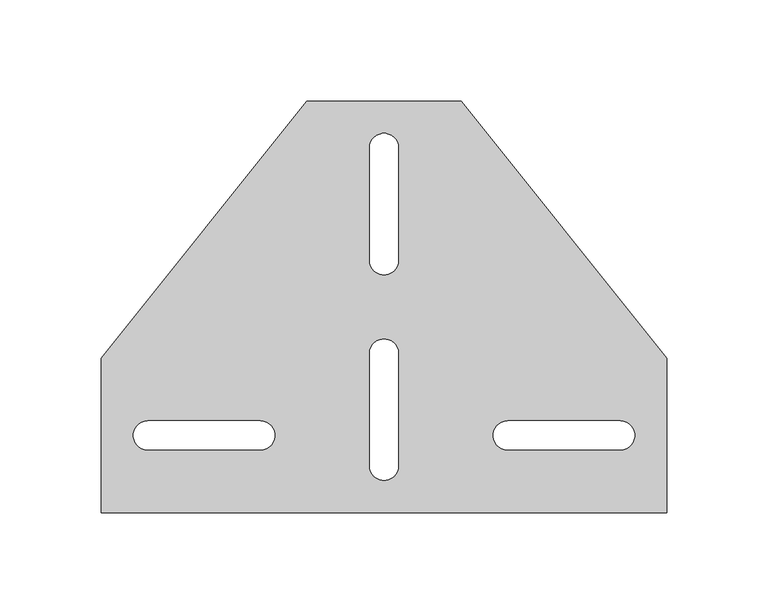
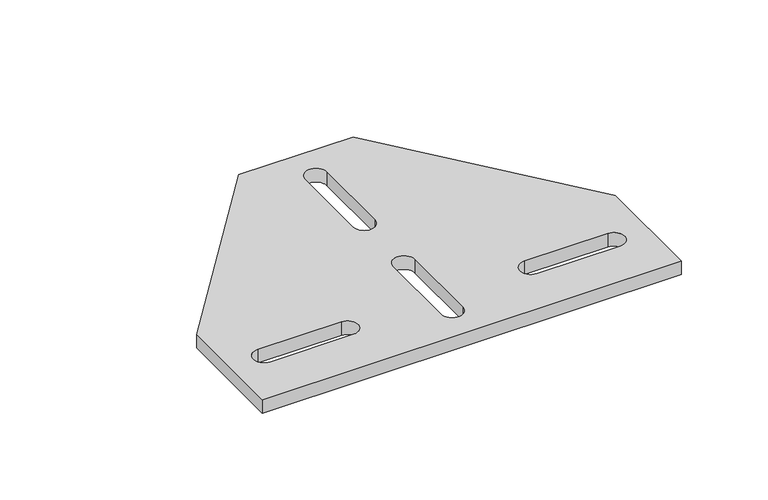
"""IFC4 building model written with IfcOpenShell, lengths in millimetres: proxy geometry, 14NSF-P23 : 14NSF-P23."""

from ifc_helpers import new_model, si_unit, point, frame_2d, origin, origin_with_axes, place, context, project, spatial, polyline, circle_curve, trimmed, segment, composite_curve, outline, extrude, source, transform, mapped, element, save


def generic_models_c3e818f0(model_context):
    return source(origin(), model_context, "Body", "SweptSolid", [
        extrude(outline(polyline([(-139.7, 0.0), (-139.7, 76.2), (-38.1, 203.2), (38.1, 203.2), (139.7, 76.2), (139.7, 0.0), (-139.7, 0.0)]), holes=[composite_curve([segment(trimmed(circle_curve(frame_2d((-61.11875, 38.1)), 7.14375), [point((-61.11875, 30.95625))], [point((-61.11875, 45.24375))], True, "CARTESIAN"), True, "CONTINUOUS"), segment(polyline([(-61.11875, 45.24375), (-116.68125, 45.24375)]), True, "CONTINUOUS"), segment(trimmed(circle_curve(frame_2d((-116.68125, 38.1)), 7.14375), [point((-116.68125, 45.24375))], [point((-116.68125, 30.95625))], True, "CARTESIAN"), True, "CONTINUOUS"), segment(polyline([(-116.68125, 30.95625), (-61.11875, 30.95625)]), True, "CONTINUOUS")], self_intersect=False), composite_curve([segment(trimmed(circle_curve(frame_2d((0.0, 23.01875)), 7.14375), [point((-7.14375, 23.01875))], [point((7.14375, 23.01875))], True, "CARTESIAN"), True, "CONTINUOUS"), segment(polyline([(7.14375, 23.01875), (7.14375, 78.58125)]), True, "CONTINUOUS"), segment(trimmed(circle_curve(frame_2d((0.0, 78.58125)), 7.14375), [point((7.14375, 78.58125))], [point((-7.14375, 78.58125))], True, "CARTESIAN"), True, "CONTINUOUS"), segment(polyline([(-7.14375, 78.58125), (-7.14375, 23.01875)]), True, "CONTINUOUS")], self_intersect=False), composite_curve([segment(trimmed(circle_curve(frame_2d((116.68125, 38.1)), 7.14375), [point((116.68125, 30.95625))], [point((116.68125, 45.24375))], True, "CARTESIAN"), True, "CONTINUOUS"), segment(polyline([(116.68125, 45.24375), (61.11875, 45.24375)]), True, "CONTINUOUS"), segment(trimmed(circle_curve(frame_2d((61.11875, 38.1)), 7.14375), [point((61.11875, 45.24375))], [point((61.11875, 30.95625))], True, "CARTESIAN"), True, "CONTINUOUS"), segment(polyline([(61.11875, 30.95625), (116.68125, 30.95625)]), True, "CONTINUOUS")], self_intersect=False), composite_curve([segment(trimmed(circle_curve(frame_2d((0.0, 124.61875)), 7.14375), [point((-7.14375, 124.61875))], [point((7.14375, 124.61875))], True, "CARTESIAN"), True, "CONTINUOUS"), segment(polyline([(7.14375, 124.61875), (7.14375, 180.18125)]), True, "CONTINUOUS"), segment(trimmed(circle_curve(frame_2d((0.0, 180.18125)), 7.14375), [point((7.14375, 180.18125))], [point((-7.14375, 180.18125))], True, "CARTESIAN"), True, "CONTINUOUS"), segment(polyline([(-7.14375, 180.18125), (-7.14375, 124.61875)]), True, "CONTINUOUS")], self_intersect=False)]), origin_with_axes(), (0.0, 0.0, 1.0), 9.525),
    ])


if __name__ == "__main__":
    model = new_model("IFC4")
    model_context = context("Model", 3, world=origin())
    ifc_project = project(units=[si_unit("LENGTHUNIT", "METRE", prefix="MILLI")], contexts=[model_context])
    site = spatial("IfcSite", under=ifc_project)
    building = spatial("IfcBuilding", under=site)
    placement = place(None, origin())
    generic_models_shape = generic_models_c3e818f0(model_context)
    element("IfcBuildingElementProxy", 1, Name="14NSF-P23 : 14NSF-P23", ObjectType="14NSF-P23 : 14NSF-P23", at=placement, inside=building, context=model_context, shape_type="MappedRepresentation", body=[
        mapped(generic_models_shape, transform((0.0, 0.0, 0.0), x_axis=(1.0, 0.0, 0.0), y_axis=(0.0, 1.0, 0.0), z_axis=(0.0, 0.0, 1.0))),
    ])
    save(model, "model.ifc")
